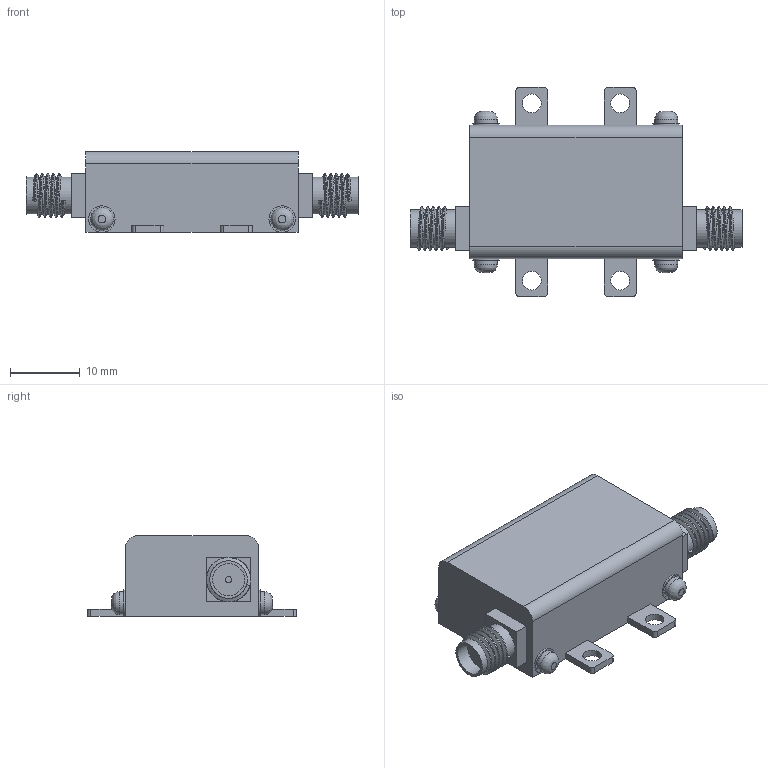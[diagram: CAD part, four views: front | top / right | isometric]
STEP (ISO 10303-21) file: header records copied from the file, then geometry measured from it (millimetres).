
FILE_DESCRIPTION(/* description */ (''),/* implementation_level */ '2;1');
FILE_NAME(/* name */ '\\Uesvr4\Engineering\Engineering_Documentation_&_CAD\Source_&_Reference_Files_For_Engineering\Reference_File\3D_Step_Files\HY1239\HY1239_Rev-D.stp',/* time_stamp */ '2022-11-09T15:51:57+05:00',/* author */ ('Nandakumar.Raja'),/* organization */ (''),/* preprocessor_version */ 'ST-DEVELOPER v18.1',/* originating_system */ 'AutoCAD Mechanical',/* authorisation */ '');
FILE_SCHEMA (('AUTOMOTIVE_DESIGN { 1 0 10303 214 3 1 1 }'));
Length unit declared in the file: inch
Products named in the file (1): Product
Bounding box: 47.7 x 30.07 x 11.61 mm (x, y, z)
Volume: 7293.6 mm3; surface area: 3293.4 mm2
Topology: 3 solids, 3 shells, 90 faces, 240 edges, 168 vertices
Faces by surface type: plane 50, cylinder 28, bspline 12
Full cylindrical faces by diameter (mm): 0.902 x2, 2.692 x4, 3.302 x4, 3.81 x4, 4.615 x2, 5.377 x2
Entity records: 9597 total; most frequent: CARTESIAN_POINT 7253, DIRECTION 482, ORIENTED_EDGE 480, EDGE_CURVE 240, AXIS2_PLACEMENT_3D 179, VERTEX_POINT 168, LINE 124, VECTOR 124
